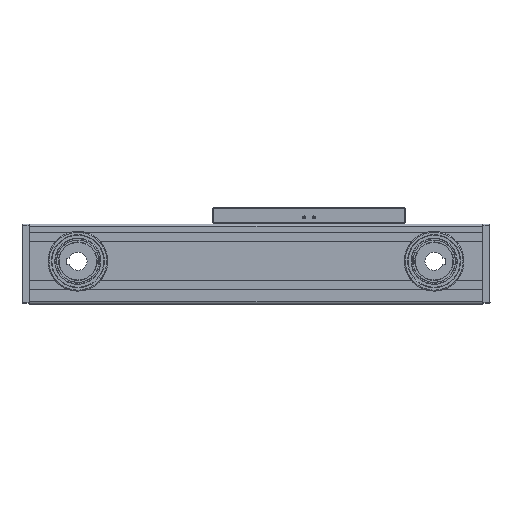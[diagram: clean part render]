
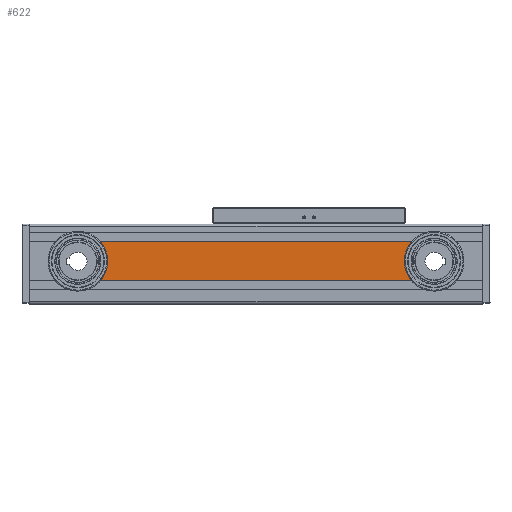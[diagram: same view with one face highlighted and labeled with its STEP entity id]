
A CAD part, top view. The second image highlights one B-rep face of the part: STEP entity #622.
In plain terms, the highlighted planar face has unit normal (0, 0, 1).
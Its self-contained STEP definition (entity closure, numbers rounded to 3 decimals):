
#622 = ADVANCED_FACE ( 'NONE', ( #5750 ), #114468, .T. ) ;
#3289 = DIRECTION ( 'NONE',  ( 0., 0., 1. ) ) ;
#5750 = FACE_OUTER_BOUND ( 'NONE', #67295, .T. ) ;
#7490 = AXIS2_PLACEMENT_3D ( 'NONE', #35492, #3289, #75640 ) ;
#12434 = VERTEX_POINT ( 'NONE', #28686 ) ;
#17530 = CARTESIAN_POINT ( 'NONE',  ( -164.672, 119.121, 83.366 ) ) ;
#17970 = DIRECTION ( 'NONE',  ( 0., 0., -1. ) ) ;
#18277 = CIRCLE ( 'NONE', #24615, 31. ) ;
#20746 = CARTESIAN_POINT ( 'NONE',  ( 231.899, 62.821, 83.366 ) ) ;
#21155 = CARTESIAN_POINT ( 'NONE',  ( -164.672, 62.821, 83.366 ) ) ;
#22835 = LINE ( 'NONE', #66854, #86905 ) ;
#24615 = AXIS2_PLACEMENT_3D ( 'NONE', #128094, #17970, #48855 ) ;
#28686 = CARTESIAN_POINT ( 'NONE',  ( 231.899, 103.421, 83.366 ) ) ;
#35492 = CARTESIAN_POINT ( 'NONE',  ( 255.328, 83.121, 83.366 ) ) ;
#39136 = ORIENTED_EDGE ( 'NONE', *, *, #129598, .T. ) ;
#46190 = VERTEX_POINT ( 'NONE', #20746 ) ;
#48855 = DIRECTION ( 'NONE',  ( -1., 0., 0. ) ) ;
#49294 = VERTEX_POINT ( 'NONE', #117157 ) ;
#56124 = AXIS2_PLACEMENT_3D ( 'NONE', #17530, #79410, #78105 ) ;
#60638 = ORIENTED_EDGE ( 'NONE', *, *, #101751, .T. ) ;
#63402 = ORIENTED_EDGE ( 'NONE', *, *, #99545, .T. ) ;
#66854 = CARTESIAN_POINT ( 'NONE',  ( -164.672, 103.421, 83.366 ) ) ;
#67295 = EDGE_LOOP ( 'NONE', ( #39136, #71221, #63402, #60638 ) ) ;
#69267 = DIRECTION ( 'NONE',  ( 1., 0., 0. ) ) ;
#71221 = ORIENTED_EDGE ( 'NONE', *, *, #127702, .F. ) ;
#75640 = DIRECTION ( 'NONE',  ( 1., 0., 0. ) ) ;
#78105 = DIRECTION ( 'NONE',  ( 1., 0., 0. ) ) ;
#78990 = CIRCLE ( 'NONE', #7490, 31. ) ;
#79410 = DIRECTION ( 'NONE',  ( 0., 0., 1. ) ) ;
#86905 = VECTOR ( 'NONE', #126322, 1000. ) ;
#89033 = LINE ( 'NONE', #21155, #107057 ) ;
#90709 = VERTEX_POINT ( 'NONE', #128696 ) ;
#99545 = EDGE_CURVE ( 'NONE', #12434, #49294, #22835, .T. ) ;
#101751 = EDGE_CURVE ( 'NONE', #49294, #90709, #18277, .T. ) ;
#107057 = VECTOR ( 'NONE', #69267, 1000. ) ;
#114468 = PLANE ( 'NONE',  #56124 ) ;
#117157 = CARTESIAN_POINT ( 'NONE',  ( -91.244, 103.421, 83.366 ) ) ;
#126322 = DIRECTION ( 'NONE',  ( -1., 0., 0. ) ) ;
#127702 = EDGE_CURVE ( 'NONE', #12434, #46190, #78990, .T. ) ;
#128094 = CARTESIAN_POINT ( 'NONE',  ( -114.672, 83.121, 83.366 ) ) ;
#128696 = CARTESIAN_POINT ( 'NONE',  ( -91.244, 62.821, 83.366 ) ) ;
#129598 = EDGE_CURVE ( 'NONE', #90709, #46190, #89033, .T. ) ;
